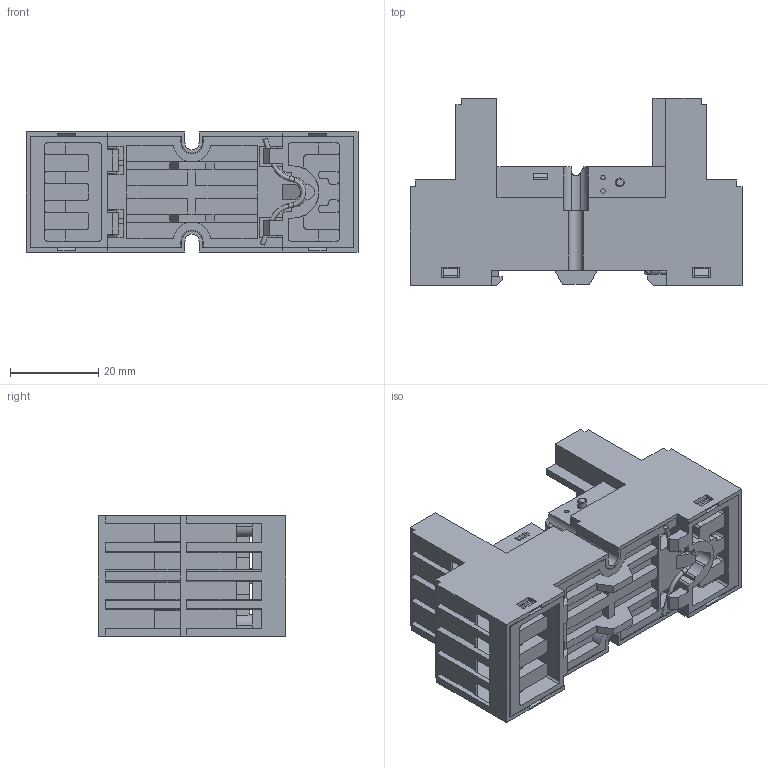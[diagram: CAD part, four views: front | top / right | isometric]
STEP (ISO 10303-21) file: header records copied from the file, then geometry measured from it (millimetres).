
FILE_DESCRIPTION(/* description */ (''),/* implementation_level */ '2;1');
FILE_NAME(/* name */ '18F-2Z-C4.stp',/* time_stamp */ '2022-11-23T09:07:37+08:00',/* author */ (''),/* organization */ (''),/* preprocessor_version */ 'ST-DEVELOPER v11',/* originating_system */ 'SIEMENS UGS NX 6.0',/* authorisation */ '');
FILE_SCHEMA (('CONFIG_CONTROL_DESIGN'));
Products named in the file (1): 18F-2Z-C4
Bounding box: 75.2 x 42.4 x 27.2 mm (x, y, z)
Volume: 23468.2 mm3; surface area: 39220.2 mm2
Topology: 21 solids, 21 shells, 1284 faces, 3606 edges, 2380 vertices
Faces by surface type: plane 1100, cylinder 153, bspline 24, torus 5, cone 2
Full cylindrical faces by diameter (mm): 1 x8, 2 x10, 2.5 x8, 3 x14, 4 x2, 4.5 x1, 5.3 x14
Entity records: 61375 total; most frequent: CARTESIAN_POINT 28397, ORIENTED_EDGE 7002, DIRECTION 6317, EDGE_CURVE 3501, LINE 3011, VECTOR 3011, VERTEX_POINT 2347, AXIS2_PLACEMENT_3D 1653
